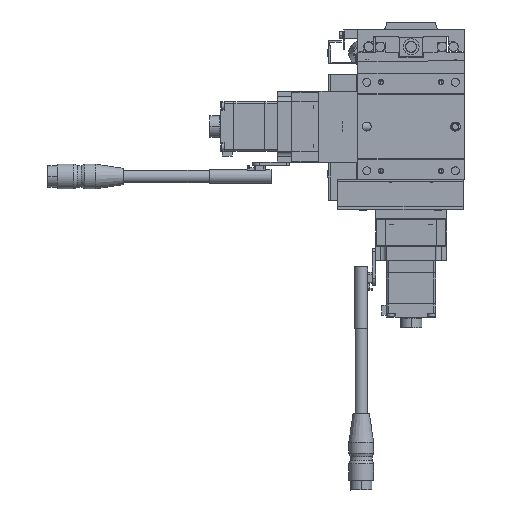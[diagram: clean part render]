
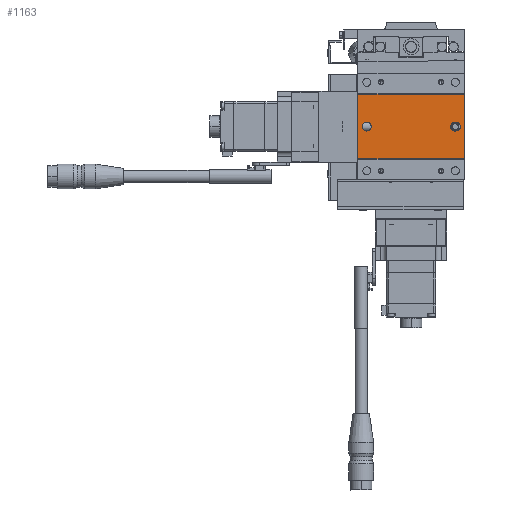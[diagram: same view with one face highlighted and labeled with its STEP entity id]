
A CAD part, front view. The second image highlights one B-rep face of the part: STEP entity #1163.
In plain terms, the highlighted planar face has unit normal (0, -1, 0).
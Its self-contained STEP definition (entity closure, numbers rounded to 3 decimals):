
#1163=ADVANCED_FACE('',(#3233,#3234,#3235),#3236,.F.);
#3233=FACE_BOUND('',#7119,.T.);
#3234=FACE_OUTER_BOUND('',#7120,.T.);
#3235=FACE_BOUND('',#7121,.T.);
#3236=PLANE('',#7122);
#7119=EDGE_LOOP('',(#12282,#12283,#12284,#12285));
#7120=EDGE_LOOP('',(#12286,#12287,#12288,#12289));
#7121=EDGE_LOOP('',(#12290,#12291,#12292));
#7122=AXIS2_PLACEMENT_3D('',#12293,#12294,#12295);
#12282=ORIENTED_EDGE('',*,*,#25632,.F.);
#12283=ORIENTED_EDGE('',*,*,#25633,.F.);
#12284=ORIENTED_EDGE('',*,*,#25634,.F.);
#12285=ORIENTED_EDGE('',*,*,#25635,.F.);
#12286=ORIENTED_EDGE('',*,*,#25617,.T.);
#12287=ORIENTED_EDGE('',*,*,#25636,.F.);
#12288=ORIENTED_EDGE('',*,*,#25637,.F.);
#12289=ORIENTED_EDGE('',*,*,#25638,.T.);
#12290=ORIENTED_EDGE('',*,*,#25522,.F.);
#12291=ORIENTED_EDGE('',*,*,#25521,.F.);
#12292=ORIENTED_EDGE('',*,*,#25639,.F.);
#12293=CARTESIAN_POINT('',(-30.,0.35,-18.15));
#12294=DIRECTION('',(0.,1.0,0.));
#12295=DIRECTION('',(-1.0,0.,0.));
#25521=EDGE_CURVE('',#30364,#30366,#30367,.F.);
#25522=EDGE_CURVE('',#30366,#30360,#30368,.F.);
#25617=EDGE_CURVE('',#30545,#30543,#30546,.T.);
#25632=EDGE_CURVE('',#30573,#30574,#30575,.F.);
#25633=EDGE_CURVE('',#30576,#30573,#30577,.T.);
#25634=EDGE_CURVE('',#30578,#30576,#30579,.F.);
#25635=EDGE_CURVE('',#30574,#30578,#30580,.T.);
#25636=EDGE_CURVE('',#30581,#30543,#30582,.T.);
#25637=EDGE_CURVE('',#30583,#30581,#30584,.T.);
#25638=EDGE_CURVE('',#30583,#30545,#30585,.T.);
#25639=EDGE_CURVE('',#30360,#30364,#30586,.F.);
#30360=VERTEX_POINT('',#38086);
#30364=VERTEX_POINT('',#38091);
#30366=VERTEX_POINT('',#38094);
#30367=CIRCLE('',#38095,2.5);
#30368=CIRCLE('',#38096,2.5);
#30543=VERTEX_POINT('',#38326);
#30545=VERTEX_POINT('',#38329);
#30546=LINE('',#38330,#38331);
#30573=VERTEX_POINT('',#38372);
#30574=VERTEX_POINT('',#38373);
#30575=CIRCLE('',#38374,2.5);
#30576=VERTEX_POINT('',#38375);
#30577=LINE('',#38376,#38377);
#30578=VERTEX_POINT('',#38378);
#30579=CIRCLE('',#38379,2.5);
#30580=LINE('',#38380,#38381);
#30581=VERTEX_POINT('',#38382);
#30582=LINE('',#38383,#38384);
#30583=VERTEX_POINT('',#38385);
#30584=LINE('',#38386,#38387);
#30585=LINE('',#38388,#38389);
#30586=CIRCLE('',#38390,2.5);
#38086=CARTESIAN_POINT('',(-22.5,0.35,0.));
#38091=CARTESIAN_POINT('',(-27.5,0.35,0.));
#38094=CARTESIAN_POINT('',(-25.,0.35,-2.5));
#38095=AXIS2_PLACEMENT_3D('',#48447,#48448,#48449);
#38096=AXIS2_PLACEMENT_3D('',#48450,#48451,#48452);
#38326=CARTESIAN_POINT('',(30.,0.35,18.15));
#38329=CARTESIAN_POINT('',(30.,0.35,-18.15));
#38330=CARTESIAN_POINT('',(30.,0.35,-18.15));
#38331=VECTOR('',#48623,1000.0);
#38372=CARTESIAN_POINT('',(25.25,0.35,-2.5));
#38373=CARTESIAN_POINT('',(25.25,0.35,2.5));
#38374=AXIS2_PLACEMENT_3D('',#48638,#48639,#48640);
#38375=CARTESIAN_POINT('',(24.75,0.35,-2.5));
#38376=CARTESIAN_POINT('',(-30.,0.35,-2.5));
#38377=VECTOR('',#48641,1000.0);
#38378=CARTESIAN_POINT('',(24.75,0.35,2.5));
#38379=AXIS2_PLACEMENT_3D('',#48642,#48643,#48644);
#38380=CARTESIAN_POINT('',(-30.,0.35,2.5));
#38381=VECTOR('',#48645,1000.0);
#38382=CARTESIAN_POINT('',(-30.,0.35,18.15));
#38383=CARTESIAN_POINT('',(-30.,0.35,18.15));
#38384=VECTOR('',#48646,1000.0);
#38385=CARTESIAN_POINT('',(-30.,0.35,-18.15));
#38386=CARTESIAN_POINT('',(-30.,0.35,-18.15));
#38387=VECTOR('',#48647,1000.0);
#38388=CARTESIAN_POINT('',(-30.,0.35,-18.15));
#38389=VECTOR('',#48648,1000.0);
#38390=AXIS2_PLACEMENT_3D('',#48649,#48650,#48651);
#48447=CARTESIAN_POINT('',(-25.0,0.35,0.));
#48448=DIRECTION('',(0.,1.0,0.));
#48449=DIRECTION('',(0.,0.,-1.0));
#48450=CARTESIAN_POINT('',(-25.0,0.35,0.));
#48451=DIRECTION('',(0.,1.0,0.));
#48452=DIRECTION('',(0.,0.,-1.0));
#48623=DIRECTION('',(0.,0.,1.0));
#48638=CARTESIAN_POINT('',(25.25,0.35,0.));
#48639=DIRECTION('',(0.,1.0,0.));
#48640=DIRECTION('',(0.,0.,-1.0));
#48641=DIRECTION('',(1.0,0.,0.));
#48642=CARTESIAN_POINT('',(24.75,0.35,0.));
#48643=DIRECTION('',(0.,1.0,0.));
#48644=DIRECTION('',(0.,0.,-1.0));
#48645=DIRECTION('',(-1.0,0.,0.));
#48646=DIRECTION('',(1.0,0.,0.));
#48647=DIRECTION('',(0.,0.,1.0));
#48648=DIRECTION('',(1.0,0.,0.));
#48649=CARTESIAN_POINT('',(-25.0,0.35,0.));
#48650=DIRECTION('',(0.,1.0,0.));
#48651=DIRECTION('',(0.,0.,-1.0));
